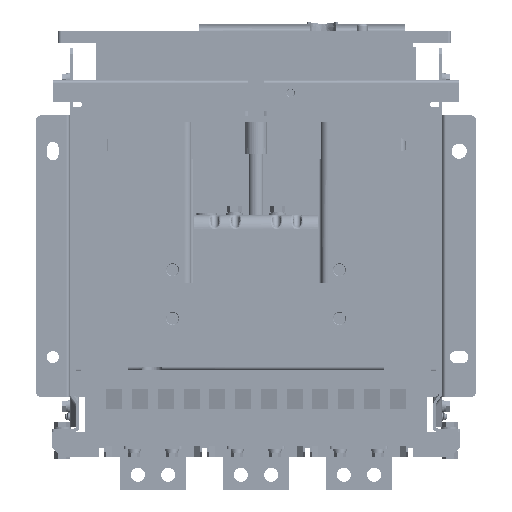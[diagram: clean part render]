
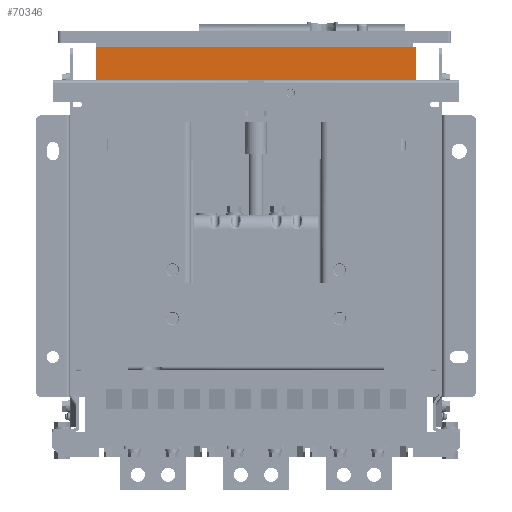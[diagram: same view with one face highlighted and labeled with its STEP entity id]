
A CAD part, front view. The second image highlights one B-rep face of the part: STEP entity #70346.
In plain terms, the highlighted planar face has unit normal (0, -1, 0) as drawn and (1, 0, 0) by its records, which use the part's own axes.
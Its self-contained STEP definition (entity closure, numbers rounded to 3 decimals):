
#4380 = VECTOR ( 'NONE', #236954, 1000. ) ;
#15172 = DIRECTION ( 'NONE',  ( 0., -1., 0. ) ) ;
#21121 = ORIENTED_EDGE ( 'NONE', *, *, #196794, .F. ) ;
#56616 = LINE ( 'NONE', #122777, #4380 ) ;
#59612 = DIRECTION ( 'NONE',  ( 1., 0., 0. ) ) ;
#61919 = EDGE_CURVE ( 'NONE', #157487, #263414, #221024, .T. ) ;
#70346 = ADVANCED_FACE ( 'NONE', ( #125775 ), #279098, .T. ) ;
#73899 = VERTEX_POINT ( 'NONE', #120815 ) ;
#81724 = EDGE_LOOP ( 'NONE', ( #245636, #21121, #223529, #256305 ) ) ;
#94727 = LINE ( 'NONE', #254015, #253317 ) ;
#120815 = CARTESIAN_POINT ( 'NONE',  ( 401.258, 11.436, -40.5 ) ) ;
#122777 = CARTESIAN_POINT ( 'NONE',  ( 401.258, -283.564, -9.5 ) ) ;
#125775 = FACE_OUTER_BOUND ( 'NONE', #81724, .T. ) ;
#130039 = EDGE_CURVE ( 'NONE', #263414, #188215, #56616, .T. ) ;
#130201 = CARTESIAN_POINT ( 'NONE',  ( 401.258, -283.564, -40.5 ) ) ;
#139793 = DIRECTION ( 'NONE',  ( 0., -1., 0. ) ) ;
#150585 = CARTESIAN_POINT ( 'NONE',  ( 401.258, -283.564, -9.5 ) ) ;
#154026 = VECTOR ( 'NONE', #15172, 1000. ) ;
#157487 = VERTEX_POINT ( 'NONE', #208594 ) ;
#160413 = DIRECTION ( 'NONE',  ( 0., 0., -1. ) ) ;
#161869 = CARTESIAN_POINT ( 'NONE',  ( 401.258, 11.436, -9.5 ) ) ;
#184748 = VECTOR ( 'NONE', #160413, 1000. ) ;
#188215 = VERTEX_POINT ( 'NONE', #254601 ) ;
#196794 = EDGE_CURVE ( 'NONE', #73899, #188215, #94727, .T. ) ;
#197733 = DIRECTION ( 'NONE',  ( 0., 1., 0. ) ) ;
#199912 = CARTESIAN_POINT ( 'NONE',  ( 401.258, 11.436, -9.5 ) ) ;
#208594 = CARTESIAN_POINT ( 'NONE',  ( 401.258, 11.436, -9.5 ) ) ;
#221024 = LINE ( 'NONE', #199912, #154026 ) ;
#223529 = ORIENTED_EDGE ( 'NONE', *, *, #224948, .F. ) ;
#224948 = EDGE_CURVE ( 'NONE', #157487, #73899, #273123, .T. ) ;
#236954 = DIRECTION ( 'NONE',  ( 0., 0., -1. ) ) ;
#245636 = ORIENTED_EDGE ( 'NONE', *, *, #130039, .T. ) ;
#253317 = VECTOR ( 'NONE', #139793, 1000. ) ;
#254015 = CARTESIAN_POINT ( 'NONE',  ( 401.258, 11.436, -40.5 ) ) ;
#254601 = CARTESIAN_POINT ( 'NONE',  ( 401.258, -283.564, -40.5 ) ) ;
#256305 = ORIENTED_EDGE ( 'NONE', *, *, #61919, .T. ) ;
#263414 = VERTEX_POINT ( 'NONE', #150585 ) ;
#273123 = LINE ( 'NONE', #161869, #184748 ) ;
#279098 = PLANE ( 'NONE',  #280623 ) ;
#280623 = AXIS2_PLACEMENT_3D ( 'NONE', #130201, #59612, #197733 ) ;
